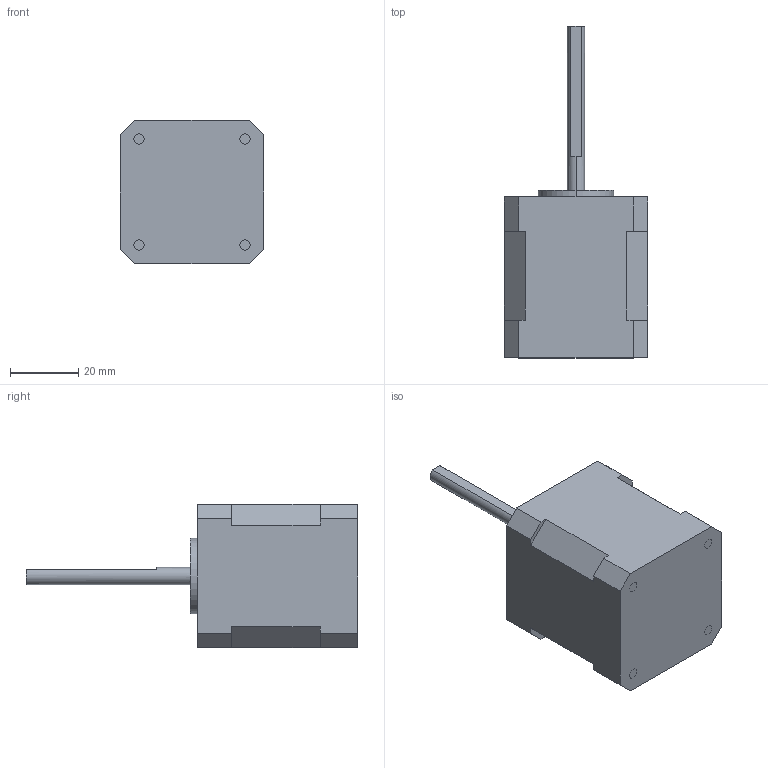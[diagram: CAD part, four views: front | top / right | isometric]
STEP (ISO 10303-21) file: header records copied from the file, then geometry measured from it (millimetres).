
FILE_DESCRIPTION (( 'STEP AP214' ), '1' );
FILE_NAME ('42HS47-D0550-003.STEP', '2019-12-10T02:35:14', ( '微软用户' ), ( '微软中国' ), 'SwSTEP 2.0', 'SolidWorks 2014', '' );
FILE_SCHEMA (( 'AUTOMOTIVE_DESIGN' ));
Length unit declared in the file: millimetre
Products named in the file (1): 42HS47-D0550-003
Bounding box: 42 x 97 x 42 mm (x, y, z)
Volume: 80508.9 mm3; surface area: 13500.5 mm2
Topology: 1 solids, 1 shells, 46 faces, 114 edges, 76 vertices
Faces by surface type: plane 34, cylinder 12
Entity records: 1398 total; most frequent: CARTESIAN_POINT 237, DIRECTION 234, ORIENTED_EDGE 228, EDGE_CURVE 114, LINE 88, VECTOR 88, VERTEX_POINT 76, AXIS2_PLACEMENT_3D 73
